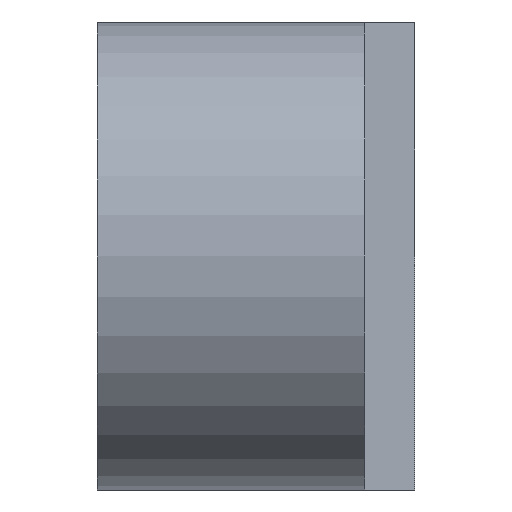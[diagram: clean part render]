
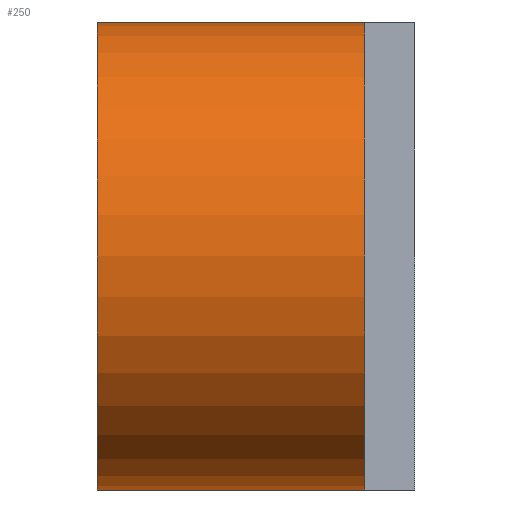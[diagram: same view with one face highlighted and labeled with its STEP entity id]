
A CAD part, left-side view. The second image highlights one B-rep face of the part: STEP entity #250.
In plain terms, the highlighted cylindrical face has radius 3.5 mm (diameter 7 mm), a partial arc.
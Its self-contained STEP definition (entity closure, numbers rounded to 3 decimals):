
#18=CYLINDRICAL_SURFACE('',#283,3.5);
#28=FACE_OUTER_BOUND('',#44,.T.);
#44=EDGE_LOOP('',(#185,#186,#187,#188));
#65=LINE('',#406,#89);
#66=LINE('',#407,#90);
#89=VECTOR('',#329,10.);
#90=VECTOR('',#330,10.);
#108=CIRCLE('',#281,3.5);
#110=CIRCLE('',#284,3.5);
#122=VERTEX_POINT('',#392);
#123=VERTEX_POINT('',#393);
#127=VERTEX_POINT('',#403);
#128=VERTEX_POINT('',#404);
#145=EDGE_CURVE('',#122,#123,#108,.T.);
#150=EDGE_CURVE('',#127,#128,#110,.T.);
#151=EDGE_CURVE('',#128,#122,#65,.T.);
#152=EDGE_CURVE('',#123,#127,#66,.T.);
#185=ORIENTED_EDGE('',*,*,#150,.T.);
#186=ORIENTED_EDGE('',*,*,#151,.T.);
#187=ORIENTED_EDGE('',*,*,#145,.T.);
#188=ORIENTED_EDGE('',*,*,#152,.T.);
#250=ADVANCED_FACE('',(#28),#18,.T.);
#281=AXIS2_PLACEMENT_3D('',#394,#318,#319);
#283=AXIS2_PLACEMENT_3D('',#402,#325,#326);
#284=AXIS2_PLACEMENT_3D('',#405,#327,#328);
#318=DIRECTION('center_axis',(0.,1.,0.));
#319=DIRECTION('ref_axis',(-0.707,0.,0.707));
#325=DIRECTION('center_axis',(0.,1.,0.));
#326=DIRECTION('ref_axis',(-0.707,0.,-0.707));
#327=DIRECTION('center_axis',(0.,-1.,0.));
#328=DIRECTION('ref_axis',(-0.707,0.,0.707));
#329=DIRECTION('',(0.,-1.,0.));
#330=DIRECTION('',(0.,1.,0.));
#392=CARTESIAN_POINT('',(-34.25,-179.,47.35));
#393=CARTESIAN_POINT('',(-34.25,-179.,54.35));
#394=CARTESIAN_POINT('Origin',(-34.25,-179.,50.85));
#402=CARTESIAN_POINT('Origin',(-34.25,-179.,50.85));
#403=CARTESIAN_POINT('',(-34.25,-175.,54.35));
#404=CARTESIAN_POINT('',(-34.25,-175.,47.35));
#405=CARTESIAN_POINT('Origin',(-34.25,-175.,50.85));
#406=CARTESIAN_POINT('',(-34.25,-179.,47.35));
#407=CARTESIAN_POINT('',(-34.25,-179.,54.35));
